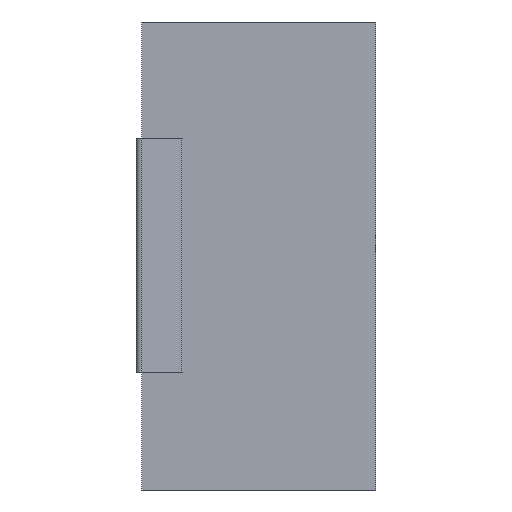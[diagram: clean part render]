
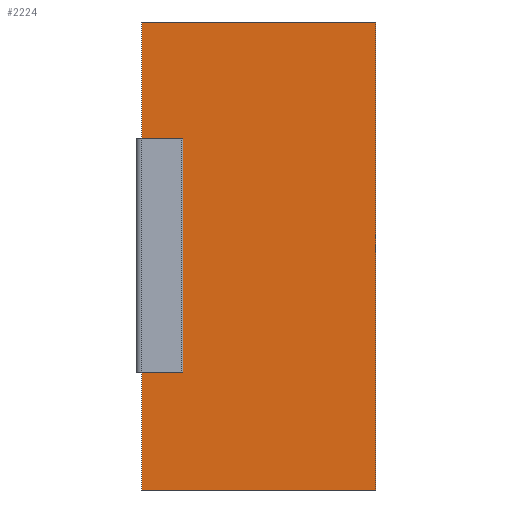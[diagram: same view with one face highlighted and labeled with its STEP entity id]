
A CAD part, front view. The second image highlights one B-rep face of the part: STEP entity #2224.
In plain terms, the highlighted planar face has unit normal (0, -1, 0).
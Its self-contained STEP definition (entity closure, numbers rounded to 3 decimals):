
#291=FACE_OUTER_BOUND('',#405,.T.);
#405=EDGE_LOOP('',(#1514,#1515,#1516,#1517));
#521=LINE('',#3232,#747);
#522=LINE('',#3235,#748);
#523=LINE('',#3237,#749);
#524=LINE('',#3238,#750);
#747=VECTOR('',#2566,100.);
#748=VECTOR('',#2569,50.);
#749=VECTOR('',#2570,50.);
#750=VECTOR('',#2571,100.);
#971=VERTEX_POINT('',#3226);
#973=VERTEX_POINT('',#3230);
#974=VERTEX_POINT('',#3234);
#975=VERTEX_POINT('',#3236);
#1189=EDGE_CURVE('',#971,#973,#521,.T.);
#1190=EDGE_CURVE('',#971,#974,#522,.T.);
#1191=EDGE_CURVE('',#975,#973,#523,.T.);
#1192=EDGE_CURVE('',#974,#975,#524,.T.);
#1514=ORIENTED_EDGE('',*,*,#1190,.F.);
#1515=ORIENTED_EDGE('',*,*,#1189,.T.);
#1516=ORIENTED_EDGE('',*,*,#1191,.F.);
#1517=ORIENTED_EDGE('',*,*,#1192,.F.);
#2159=PLANE('',#2342);
#2224=ADVANCED_FACE('',(#291),#2159,.T.);
#2342=AXIS2_PLACEMENT_3D('',#3233,#2567,#2568);
#2566=DIRECTION('',(0.,0.,1.));
#2567=DIRECTION('center_axis',(0.,-1.,0.));
#2568=DIRECTION('ref_axis',(1.,0.,0.));
#2569=DIRECTION('',(-1.,0.,0.));
#2570=DIRECTION('',(1.,0.,0.));
#2571=DIRECTION('',(0.,0.,1.));
#3226=CARTESIAN_POINT('',(20.692,-4.78,0.));
#3230=CARTESIAN_POINT('',(20.692,-4.78,100.));
#3232=CARTESIAN_POINT('',(20.692,-4.78,0.));
#3233=CARTESIAN_POINT('Origin',(-29.308,-4.78,0.));
#3234=CARTESIAN_POINT('',(-29.308,-4.78,0.));
#3235=CARTESIAN_POINT('',(20.692,-4.78,0.));
#3236=CARTESIAN_POINT('',(-29.308,-4.78,100.));
#3237=CARTESIAN_POINT('',(20.692,-4.78,100.));
#3238=CARTESIAN_POINT('',(-29.308,-4.78,0.));
